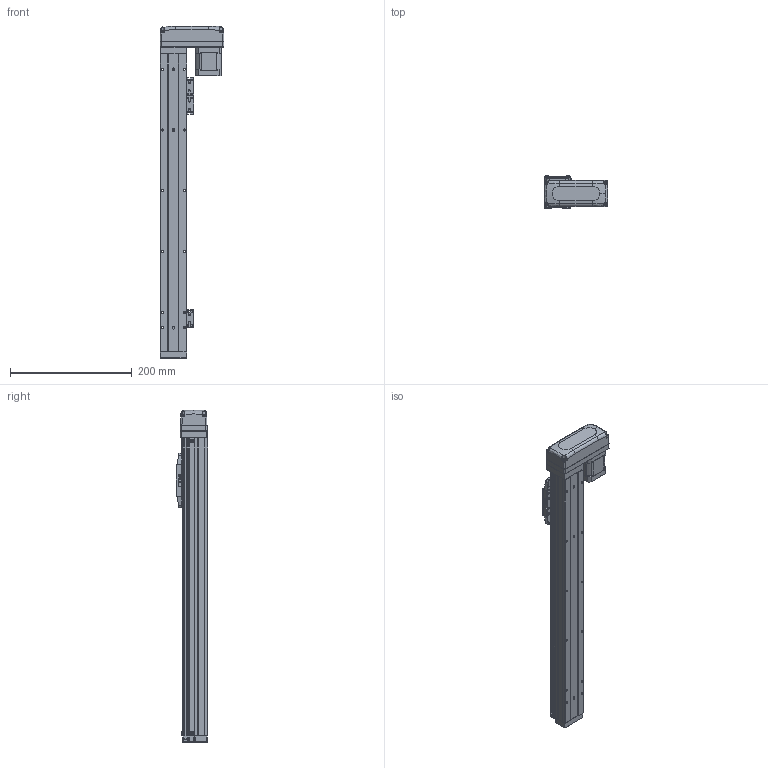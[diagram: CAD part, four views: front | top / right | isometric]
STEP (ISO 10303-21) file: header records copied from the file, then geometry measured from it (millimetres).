
FILE_DESCRIPTION (( 'STEP AP203' ), '1' );
FILE_NAME ('GTH4-350-BL-B42-C4.step', '2023-02-14T00:18:23', ( '微软用户' ), ( '微软中国' ), 'SwSTEP 2.0', 'SolidWorks 2020', '' );
FILE_SCHEMA (( 'CONFIG_CONTROL_DESIGN' ));
Length unit declared in the file: millimetre
Products named in the file (19): BTH50-028; BTH40-004; BTH50-023; BTH40-013; BTH40-001-50_BTH40-001-350; BTH50-024; GBT 70.3-M3℅6; BTH40-003; GBT 70.1-M3℅6; BTH40-027-1; BTH40-006; GBT96.1-2002 3×0.8; BTH50-026; BTH-M3X5X6; BTH40-022; 42CM06; GBT70.1-2000 M3×16; GBT 70.1-M2.5×6; GTH4-350-BL-B42-C4
Assembly tree (47 placements, depth 2):
  GTH4-350-BL-B42-C4
    BTH40-001-50_BTH40-001-350
    BTH40-003
    BTH40-006
    BTH-M3X5X6  x8
    GBT70.1-2000 M3×16  x4
    BTH50-028  x2
    BTH50-023  x3
    BTH50-024  x3
    GBT 70.1-M3℅6  x6
    GBT96.1-2002 3×0.8  x6
    BTH40-022
    GBT 70.1-M2.5×6  x2
    BTH40-004
    BTH40-013
    GBT 70.3-M3℅6  x4
    BTH40-027-1
    BTH50-026
    42CM06
Bounding box: 105 x 52 x 546 mm (x, y, z)
Volume: 1003524.8 mm3; surface area: 208702.8 mm2
Topology: 56 solids, 56 shells, 3315 faces, 7732 edges, 4626 vertices
Faces by surface type: cone 1488, plane 1076, cylinder 573, torus 124, bspline 42, sphere 12
Entity records: 77390 total; most frequent: CARTESIAN_POINT 13961, DIRECTION 13745, ORIENTED_EDGE 12110, EDGE_CURVE 6055, AXIS2_PLACEMENT_3D 5273, VERTEX_POINT 3613, LINE 3199, VECTOR 3199
